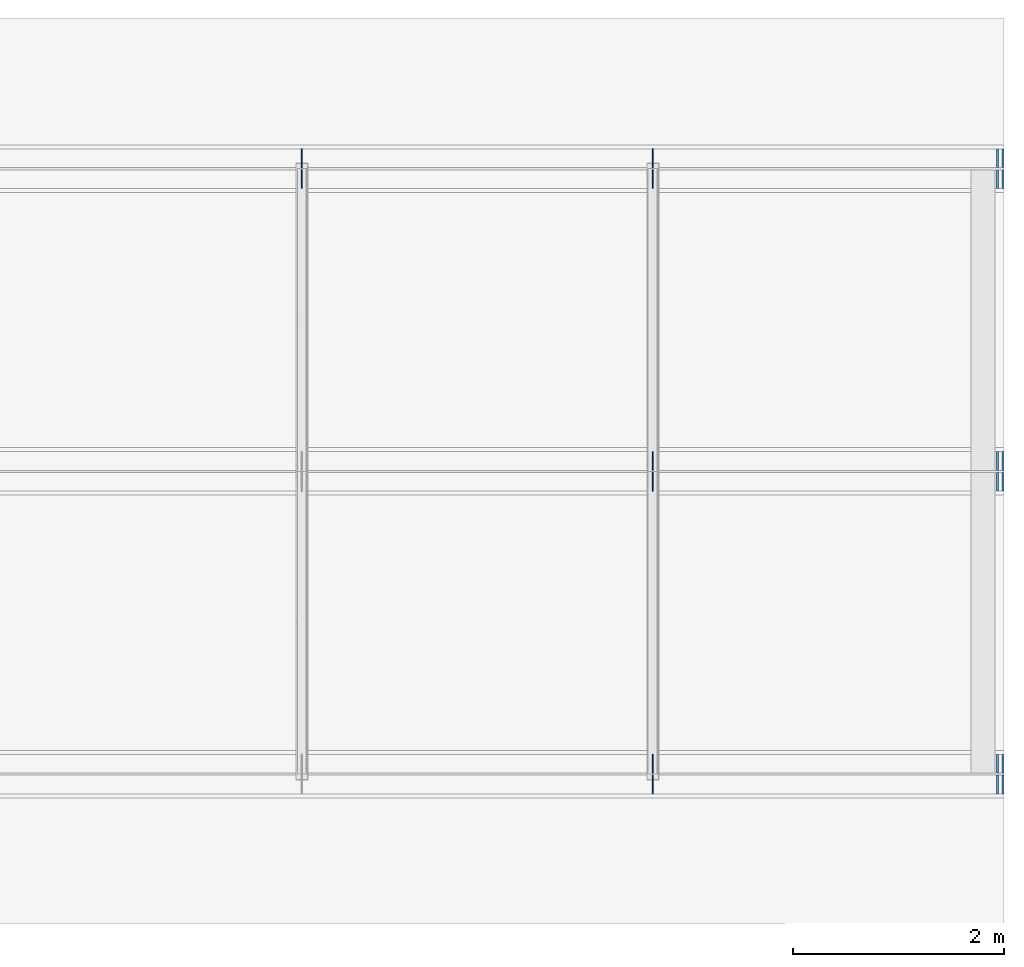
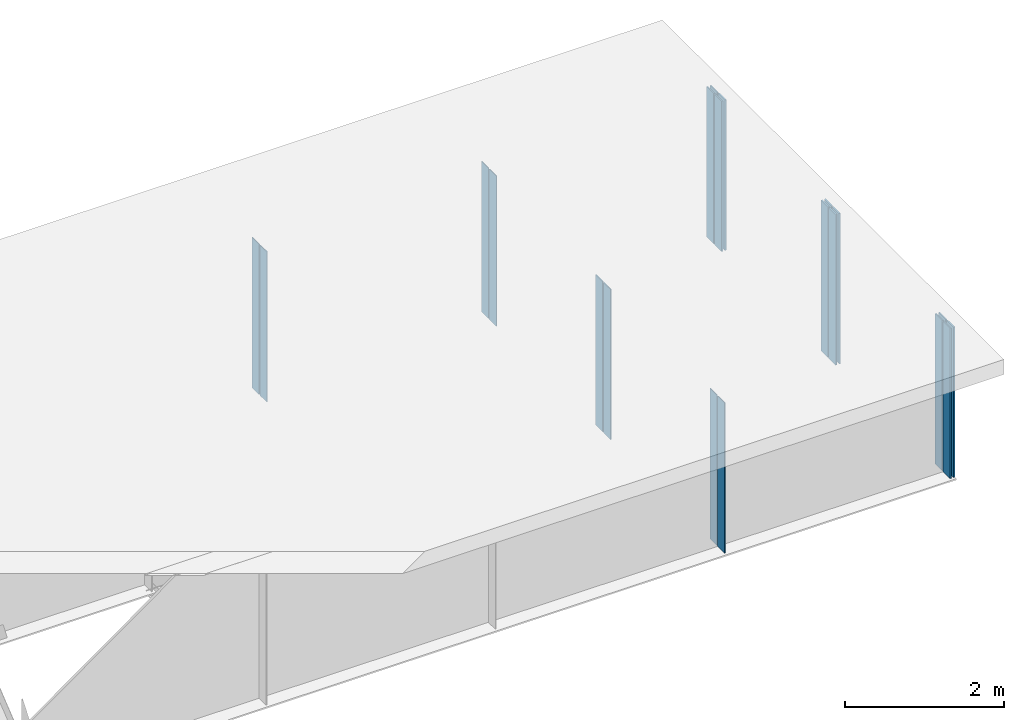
# One storey, part 12 of 12: 20 plates.
"""IFC4 building model written with IfcOpenShell, lengths in metres."""

from ifc_helpers import new_model, si_unit, frame, origin, origin_with_axes, origin_2d_with_axis, place, context, subcontext, project, spatial, rectangle, extrude, element, save


model = new_model("IFC4")

# Units and contexts
model_context = context("Model", 3, precision=1e-05, world=origin())
body_context = subcontext(model_context, "Body", "Model", "MODEL_VIEW")
ifc_project = project(units=[si_unit("LENGTHUNIT", "METRE"), si_unit("AREAUNIT", "SQUARE_METRE"), si_unit("VOLUMEUNIT", "CUBIC_METRE"), si_unit("PLANEANGLEUNIT", "RADIAN")], contexts=[model_context])

# Site, building, storey
site_placement = place(None, origin_with_axes())
site = spatial("IfcSite", under=ifc_project, at=site_placement, Name="Default Site")
building_placement = place(site_placement, origin_with_axes())
building = spatial("IfcBuilding", under=site, at=building_placement, Name="Bridge Structure")
storey_placement = place(building_placement, origin_with_axes())
storey = spatial("IfcBuildingStorey", under=building, at=storey_placement, Name="Superstructure")

# Plates
for number, where, z_axis, x_axis, name in (
    (1, (36.663000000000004, -2.77625, -1.155), (0.0, 0.0, 1.0), (1.0, 0.0, 0.0), "Intermediate Stiffener 1"),
    (2, (36.663000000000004, -2.97375, -1.155), (0.0, 0.0, 1.0), (1.0, 0.0, 0.0), "Intermediate Stiffener 1"),
):
    element("IfcPlate", number, at=place(storey_placement, frame(where, z_axis=z_axis, x_axis=x_axis)), inside=storey, Name=name, context=body_context, shape_type="SweptSolid", body=[
        extrude(rectangle(XDim=0.012, YDim=0.1775, at=origin_2d_with_axis()), origin_with_axes(), (0.0, 0.0, 1.0), 2.31),
    ])
for number, where, z_axis, x_axis, name in (
    (3, (39.99, -2.77625, -1.155), (0.0, 0.0, 1.0), (1.0, 0.0, 0.0), "End Stiffener 1"),
    (4, (39.99, -2.97375, -1.155), (0.0, 0.0, 1.0), (1.0, 0.0, 0.0), "End Stiffener 1"),
    (5, (39.94, -2.77625, -1.155), (0.0, 0.0, 1.0), (1.0, 0.0, 0.0), "End Stiffener 1"),
    (6, (39.94, -2.97375, -1.155), (0.0, 0.0, 1.0), (1.0, 0.0, 0.0), "End Stiffener 1"),
):
    element("IfcPlate", number, at=place(storey_placement, frame(where, z_axis=z_axis, x_axis=x_axis)), inside=storey, Name=name, context=body_context, shape_type="SweptSolid", body=[
        extrude(rectangle(XDim=0.02, YDim=0.1775, at=origin_2d_with_axis()), origin_with_axes(), (0.0, 0.0, 1.0), 2.31),
    ])
for number, where, z_axis, x_axis, name in (
    (7, (36.663000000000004, 0.09875, -1.155), (0.0, 0.0, 1.0), (1.0, 0.0, 0.0), "Intermediate Stiffener 2"),
    (8, (36.663000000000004, -0.09875, -1.155), (0.0, 0.0, 1.0), (1.0, 0.0, 0.0), "Intermediate Stiffener 2"),
):
    element("IfcPlate", number, at=place(storey_placement, frame(where, z_axis=z_axis, x_axis=x_axis)), inside=storey, Name=name, context=body_context, shape_type="SweptSolid", body=[
        extrude(rectangle(XDim=0.012, YDim=0.1775, at=origin_2d_with_axis()), origin_with_axes(), (0.0, 0.0, 1.0), 2.31),
    ])
for number, where, z_axis, x_axis, name in (
    (9, (39.99, 0.09875, -1.155), (0.0, 0.0, 1.0), (1.0, 0.0, 0.0), "End Stiffener 2"),
    (10, (39.99, -0.09875, -1.155), (0.0, 0.0, 1.0), (1.0, 0.0, 0.0), "End Stiffener 2"),
    (11, (39.94, 0.09875, -1.155), (0.0, 0.0, 1.0), (1.0, 0.0, 0.0), "End Stiffener 2"),
    (12, (39.94, -0.09875, -1.155), (0.0, 0.0, 1.0), (1.0, 0.0, 0.0), "End Stiffener 2"),
):
    element("IfcPlate", number, at=place(storey_placement, frame(where, z_axis=z_axis, x_axis=x_axis)), inside=storey, Name=name, context=body_context, shape_type="SweptSolid", body=[
        extrude(rectangle(XDim=0.02, YDim=0.1775, at=origin_2d_with_axis()), origin_with_axes(), (0.0, 0.0, 1.0), 2.31),
    ])
for number, where, z_axis, x_axis, name in (
    (13, (33.33, 2.97375, -1.155), (0.0, 0.0, 1.0), (1.0, 0.0, 0.0), "Intermediate Stiffener 3"),
    (14, (33.33, 2.77625, -1.155), (0.0, 0.0, 1.0), (1.0, 0.0, 0.0), "Intermediate Stiffener 3"),
    (15, (36.663000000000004, 2.97375, -1.155), (0.0, 0.0, 1.0), (1.0, 0.0, 0.0), "Intermediate Stiffener 3"),
    (16, (36.663000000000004, 2.77625, -1.155), (0.0, 0.0, 1.0), (1.0, 0.0, 0.0), "Intermediate Stiffener 3"),
):
    element("IfcPlate", number, at=place(storey_placement, frame(where, z_axis=z_axis, x_axis=x_axis)), inside=storey, Name=name, context=body_context, shape_type="SweptSolid", body=[
        extrude(rectangle(XDim=0.012, YDim=0.1775, at=origin_2d_with_axis()), origin_with_axes(), (0.0, 0.0, 1.0), 2.31),
    ])
for number, where, z_axis, x_axis, name in (
    (17, (39.99, 2.97375, -1.155), (0.0, 0.0, 1.0), (1.0, 0.0, 0.0), "End Stiffener 3"),
    (18, (39.99, 2.77625, -1.155), (0.0, 0.0, 1.0), (1.0, 0.0, 0.0), "End Stiffener 3"),
    (19, (39.94, 2.97375, -1.155), (0.0, 0.0, 1.0), (1.0, 0.0, 0.0), "End Stiffener 3"),
    (20, (39.94, 2.77625, -1.155), (0.0, 0.0, 1.0), (1.0, 0.0, 0.0), "End Stiffener 3"),
):
    element("IfcPlate", number, at=place(storey_placement, frame(where, z_axis=z_axis, x_axis=x_axis)), inside=storey, Name=name, context=body_context, shape_type="SweptSolid", body=[
        extrude(rectangle(XDim=0.02, YDim=0.1775, at=origin_2d_with_axis()), origin_with_axes(), (0.0, 0.0, 1.0), 2.31),
    ])

save(model, "model.ifc")
